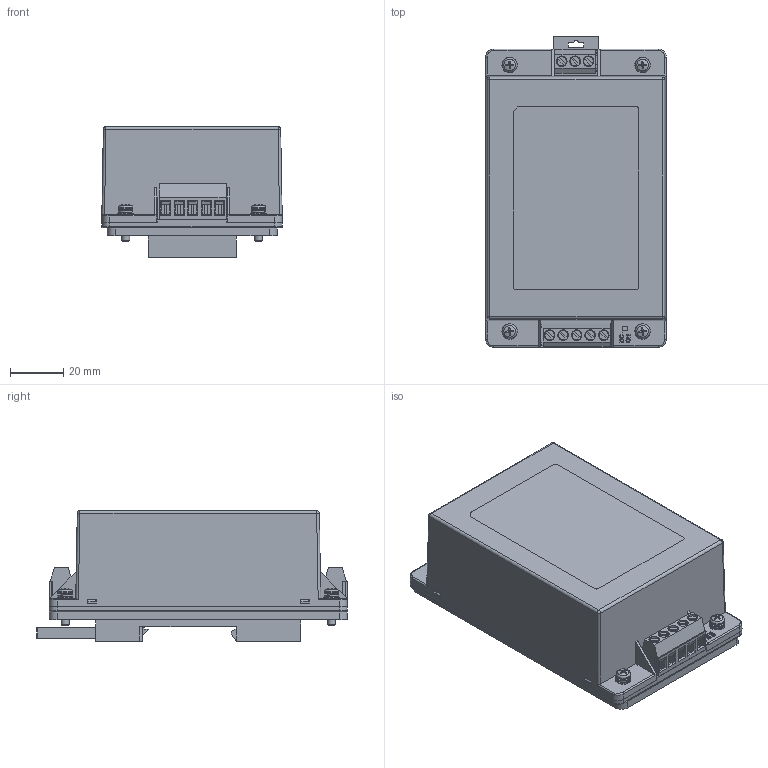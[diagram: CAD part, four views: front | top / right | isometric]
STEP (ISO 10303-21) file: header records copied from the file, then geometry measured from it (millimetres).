
FILE_DESCRIPTION((''),'2;1');
FILE_NAME('E:\A-本機磁碟(E)\Karens Share\型錄用 3D Model-STEP檔-2017\Din-Rail 3D Model\MRWI60 Chassis Mounting(Din-Rail).stp','2017-11-03T15:27:48',('COSMOS'),(''),'Autodesk Inventor 2008','Autodesk Inventor 2008','');
FILE_SCHEMA(('AUTOMOTIVE_DESIGN { 1 0 10303 214 1 1 1 1 }'));
Length unit declared in the file: millimetre
Products named in the file (17): MRWI60 Chassis Mounting(Din-Rail); AC-DIN-2(A086-HS-6); DIN rail; 30w夾扣散熱片; M3-12mm; ISO 7045  H  (正規螺紋) M3 x 10 - 4.8 - HA; FLAT WASHER; SPRING WASHER; M3-8mm; ISO 7045  H  (正規螺紋) M3 x 10 - 4.8 - H; MRWI60; MRWI60 BASE; MRWI60 CASE; 實體1A; 實體1B; Connect(5PIN); Connect(3PIN)
Assembly tree (24 placements, depth 4):
  MRWI60 Chassis Mounting(Din-Rail)
    AC-DIN-2(A086-HS-6)
      DIN rail
      30w夾扣散熱片
      M3-12mm  x4
        ISO 7045  H  (正規螺紋) M3 x 10 - 4.8 - HA
        FLAT WASHER
        SPRING WASHER
      M3-8mm  x4
        FLAT WASHER
        SPRING WASHER
        ISO 7045  H  (正規螺紋) M3 x 10 - 4.8 - H
    MRWI60
      MRWI60 BASE
      MRWI60 CASE
        實體1A
        實體1B
      Connect(5PIN)
      Connect(3PIN)
Bounding box: 67.8 x 116.71 x 49 mm (x, y, z)
Volume: 241754.1 mm3; surface area: 77584.3 mm2
Topology: 31 solids, 31 shells, 1119 faces, 2840 edges, 1846 vertices
Faces by surface type: plane 703, cylinder 203, cone 98, torus 52, bspline 49, sphere 14
Full cylindrical faces by diameter (mm): 1.5 x6, 1.8 x1, 2.459 x1, 2.729 x8, 2.8 x8, 3 x16, 3.4 x6, 3.5 x16, 4 x9, 4.08 x5, 5.3 x1, 5.5 x8, 5.8 x8, 6 x4, 6.5 x1, 8 x1
Entity records: 29741 total; most frequent: CARTESIAN_POINT 8153, ORIENTED_EDGE 4298, DIRECTION 4155, EDGE_CURVE 2149, VECTOR 1647, LINE 1647, VERTEX_POINT 1445, AXIS2_PLACEMENT_3D 1254
